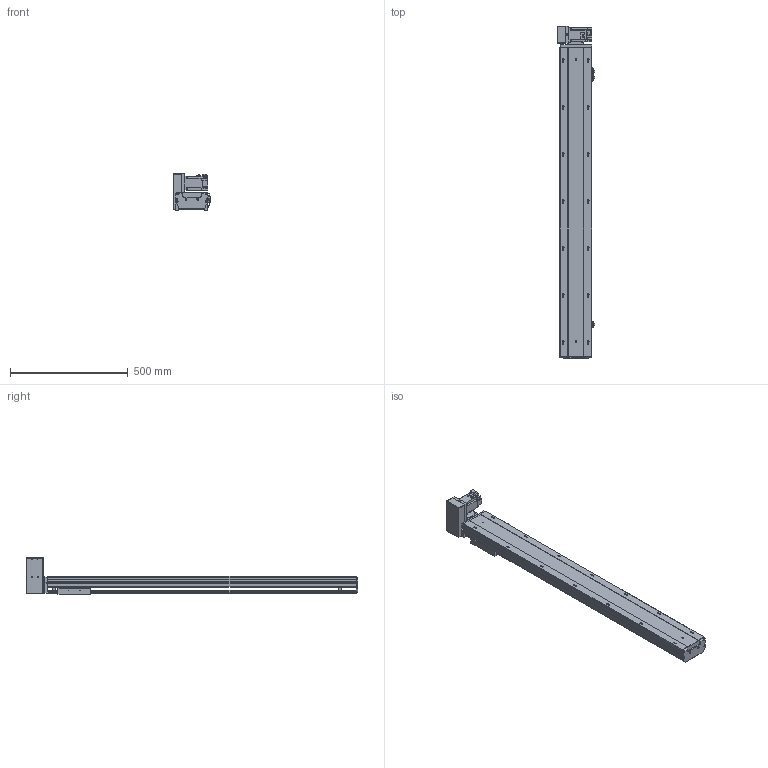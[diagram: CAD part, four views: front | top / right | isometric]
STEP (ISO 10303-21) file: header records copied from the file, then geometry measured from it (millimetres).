
FILE_DESCRIPTION (( 'STEP AP203' ), '1' );
FILE_NAME ('105.STEP', '2022-07-21T08:29:39', ( '' ), ( '' ), 'SwSTEP 2.0', 'SolidWorks 2016', '' );
FILE_SCHEMA (( 'CONFIG_CONTROL_DESIGN' ));
Length unit declared in the file: millimetre
Products named in the file (10): BTB14-L-24; BTB14-L-02; 105; BTB14-L-23; BTB14-L-菁釱_XD; BTB14-L-06; BTB14-L-04; BTB14-L-HZ; BTB14-L-M40; BTB14-L-01
Assembly tree (12 placements, depth 2):
  105
    BTB14-L-菁釱_XD
    BTB14-L-01
    BTB14-L-02
    BTB14-L-04  x3
    BTB14-L-06
    BTB14-L-23  x2
    BTB14-L-24
    BTB14-L-HZ
    BTB14-L-M40
Bounding box: 160.7 x 1412.5 x 157.3 mm (x, y, z)
Volume: 6479410.7 mm3; surface area: 1369401.8 mm2
Topology: 22 solids, 22 shells, 1618 faces, 4277 edges, 2728 vertices
Faces by surface type: plane 937, cylinder 464, cone 128, bspline 77, torus 12
Entity records: 42910 total; most frequent: CARTESIAN_POINT 10599, ORIENTED_EDGE 6468, DIRECTION 6420, EDGE_CURVE 3234, LINE 2206, VECTOR 2206, AXIS2_PLACEMENT_3D 2107, VERTEX_POINT 2106
